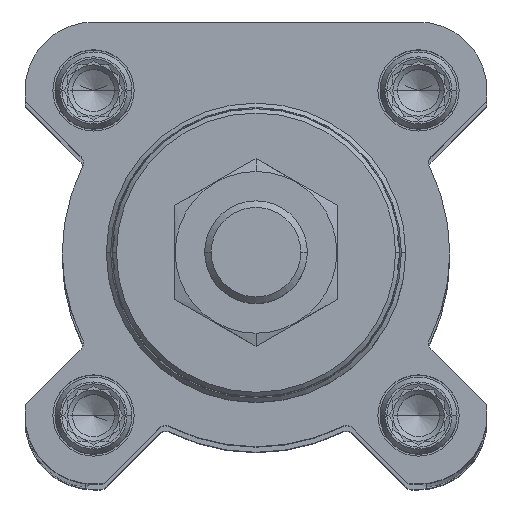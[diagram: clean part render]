
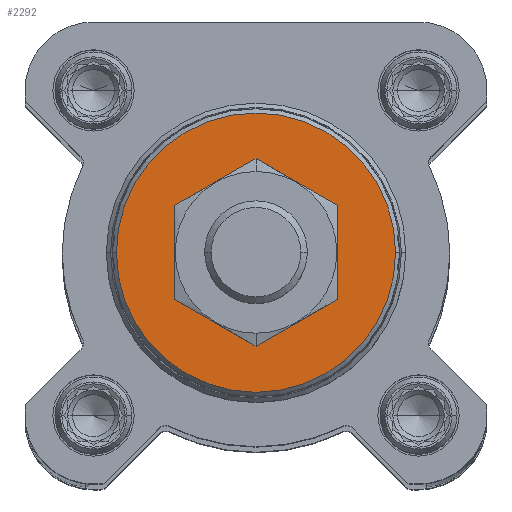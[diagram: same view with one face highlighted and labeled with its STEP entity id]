
A CAD part, top view. The second image highlights one B-rep face of the part: STEP entity #2292.
In plain terms, the highlighted planar face has unit normal (0, 0, 1).
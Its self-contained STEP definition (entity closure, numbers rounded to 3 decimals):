
#38 = VERTEX_POINT ( 'NONE', #6219 ) ;
#1603 = FACE_OUTER_BOUND ( 'NONE', #13308, .T. ) ;
#2292 = ADVANCED_FACE ( 'NONE', ( #1603, #11953 ), #13748, .F. ) ;
#2635 = VERTEX_POINT ( 'NONE', #16707 ) ;
#2642 = ORIENTED_EDGE ( 'NONE', *, *, #10869, .F. ) ;
#2885 = DIRECTION ( 'NONE',  ( 0., -1., 0. ) ) ;
#3419 = ORIENTED_EDGE ( 'NONE', *, *, #6369, .T. ) ;
#3735 = CARTESIAN_POINT ( 'NONE',  ( 0., 0., 21.3 ) ) ;
#4575 = ORIENTED_EDGE ( 'NONE', *, *, #11815, .F. ) ;
#5766 = CARTESIAN_POINT ( 'NONE',  ( 0., 0., 21.3 ) ) ;
#5870 = CIRCLE ( 'NONE', #18888, 8. ) ;
#6180 = CARTESIAN_POINT ( 'NONE',  ( 0., 0., 21.3 ) ) ;
#6219 = CARTESIAN_POINT ( 'NONE',  ( -8., 0., 21.3 ) ) ;
#6369 = EDGE_CURVE ( 'NONE', #38, #12700, #9073, .T. ) ;
#7148 = ORIENTED_EDGE ( 'NONE', *, *, #18003, .T. ) ;
#7549 = DIRECTION ( 'NONE',  ( -1., 0., 0. ) ) ;
#7944 = CIRCLE ( 'NONE', #16523, 16.32 ) ;
#8728 = CARTESIAN_POINT ( 'NONE',  ( 8., 0., 21.3 ) ) ;
#9073 = CIRCLE ( 'NONE', #12589, 8. ) ;
#10518 = AXIS2_PLACEMENT_3D ( 'NONE', #12701, #13102, #15802 ) ;
#10869 = EDGE_CURVE ( 'NONE', #2635, #16457, #7944, .T. ) ;
#11600 = CARTESIAN_POINT ( 'NONE',  ( 0., 0., 21.3 ) ) ;
#11815 = EDGE_CURVE ( 'NONE', #16457, #2635, #19088, .T. ) ;
#11953 = FACE_BOUND ( 'NONE', #16235, .T. ) ;
#12249 = DIRECTION ( 'NONE',  ( 0., 0., -1. ) ) ;
#12589 = AXIS2_PLACEMENT_3D ( 'NONE', #11600, #19235, #14773 ) ;
#12698 = DIRECTION ( 'NONE',  ( -1., 0., 0. ) ) ;
#12700 = VERTEX_POINT ( 'NONE', #8728 ) ;
#12701 = CARTESIAN_POINT ( 'NONE',  ( 0., 0., 21.3 ) ) ;
#13102 = DIRECTION ( 'NONE',  ( 0., 0., -1. ) ) ;
#13308 = EDGE_LOOP ( 'NONE', ( #4575, #2642 ) ) ;
#13748 = PLANE ( 'NONE',  #16651 ) ;
#14393 = DIRECTION ( 'NONE',  ( 0., 0., -1. ) ) ;
#14773 = DIRECTION ( 'NONE',  ( -1., 0., 0. ) ) ;
#15720 = CARTESIAN_POINT ( 'NONE',  ( -16.32, 0., 21.3 ) ) ;
#15802 = DIRECTION ( 'NONE',  ( -1., 0., 0. ) ) ;
#16235 = EDGE_LOOP ( 'NONE', ( #3419, #7148 ) ) ;
#16457 = VERTEX_POINT ( 'NONE', #15720 ) ;
#16523 = AXIS2_PLACEMENT_3D ( 'NONE', #3735, #14393, #12698 ) ;
#16651 = AXIS2_PLACEMENT_3D ( 'NONE', #6180, #12249, #2885 ) ;
#16707 = CARTESIAN_POINT ( 'NONE',  ( 16.32, 0., 21.3 ) ) ;
#16807 = DIRECTION ( 'NONE',  ( 0., 0., -1. ) ) ;
#18003 = EDGE_CURVE ( 'NONE', #12700, #38, #5870, .T. ) ;
#18888 = AXIS2_PLACEMENT_3D ( 'NONE', #5766, #16807, #7549 ) ;
#19088 = CIRCLE ( 'NONE', #10518, 16.32 ) ;
#19235 = DIRECTION ( 'NONE',  ( 0., 0., -1. ) ) ;
